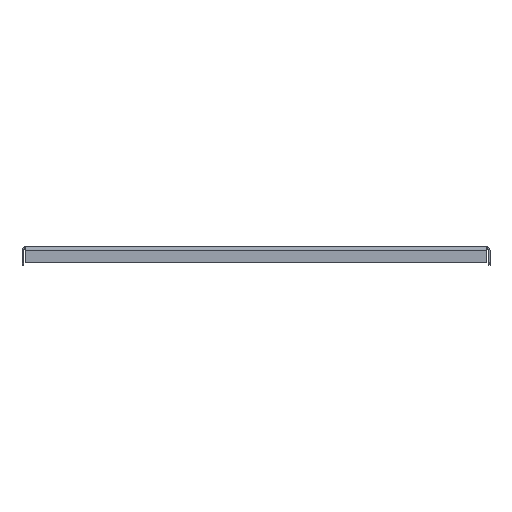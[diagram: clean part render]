
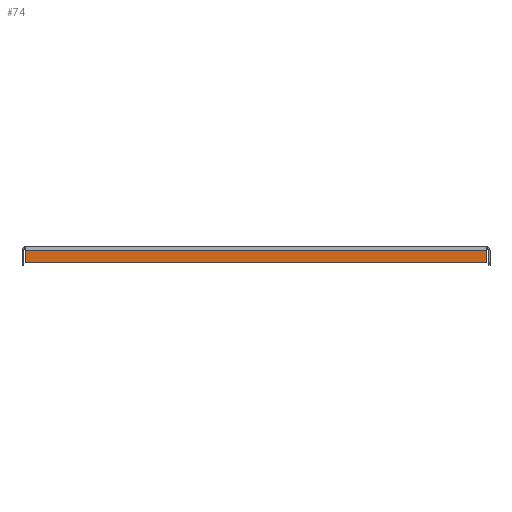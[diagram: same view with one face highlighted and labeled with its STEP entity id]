
A CAD part, front view. The second image highlights one B-rep face of the part: STEP entity #74.
In plain terms, the highlighted planar face has unit normal (0, -1, 0).
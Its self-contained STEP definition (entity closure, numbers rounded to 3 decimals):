
#74=ADVANCED_FACE('',(#1508),#1510,.T.);
#1508=FACE_BOUND('',#1509,.T.);
#1509=EDGE_LOOP('',(#7457,#7458,#7459,#7460));
#1510=PLANE('',#1511);
#1511=AXIS2_PLACEMENT_3D('',#1512,#1513,#1514);
#1512=CARTESIAN_POINT('',(0.,-248.5,0.));
#1513=DIRECTION('',(0.,-1.,0.));
#1514=DIRECTION('',(0.,0.,-1.));
#7457=ORIENTED_EDGE('',*,*,#11407,.F.);
#7458=ORIENTED_EDGE('',*,*,#11401,.T.);
#7459=ORIENTED_EDGE('',*,*,#11403,.F.);
#7460=ORIENTED_EDGE('',*,*,#11409,.F.);
#11401=EDGE_CURVE('',#14640,#14647,#14651,.T.);
#11403=EDGE_CURVE('',#14653,#14647,#14654,.T.);
#11407=EDGE_CURVE('',#14640,#14660,#14661,.T.);
#11409=EDGE_CURVE('',#14660,#14653,#14663,.T.);
#14640=VERTEX_POINT('',#20494);
#14647=VERTEX_POINT('',#20514);
#14651=LINE('',#20525,#20526);
#14653=VERTEX_POINT('',#20531);
#14654=LINE('',#20532,#20533);
#14660=VERTEX_POINT('',#20546);
#14661=LINE('',#20547,#20548);
#14663=LINE('',#20553,#20554);
#20494=CARTESIAN_POINT('',(239.1,-248.5,-3.4));
#20514=CARTESIAN_POINT('',(-239.1,-248.5,-3.4));
#20525=CARTESIAN_POINT('',(239.1,-248.5,-3.4));
#20526=VECTOR('',#20527,1.);
#20527=DIRECTION('',(-1.,0.,0.));
#20531=CARTESIAN_POINT('',(-239.1,-248.5,-16.4));
#20532=CARTESIAN_POINT('',(-239.1,-248.5,-16.4));
#20533=VECTOR('',#20534,1.);
#20534=DIRECTION('',(0.,0.,1.));
#20546=CARTESIAN_POINT('',(239.1,-248.5,-16.4));
#20547=CARTESIAN_POINT('',(239.1,-248.5,-3.4));
#20548=VECTOR('',#20549,1.);
#20549=DIRECTION('',(0.,0.,-1.));
#20553=CARTESIAN_POINT('',(239.1,-248.5,-16.4));
#20554=VECTOR('',#20555,1.);
#20555=DIRECTION('',(-1.,0.,0.));
